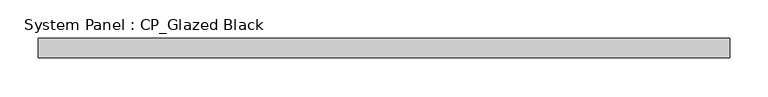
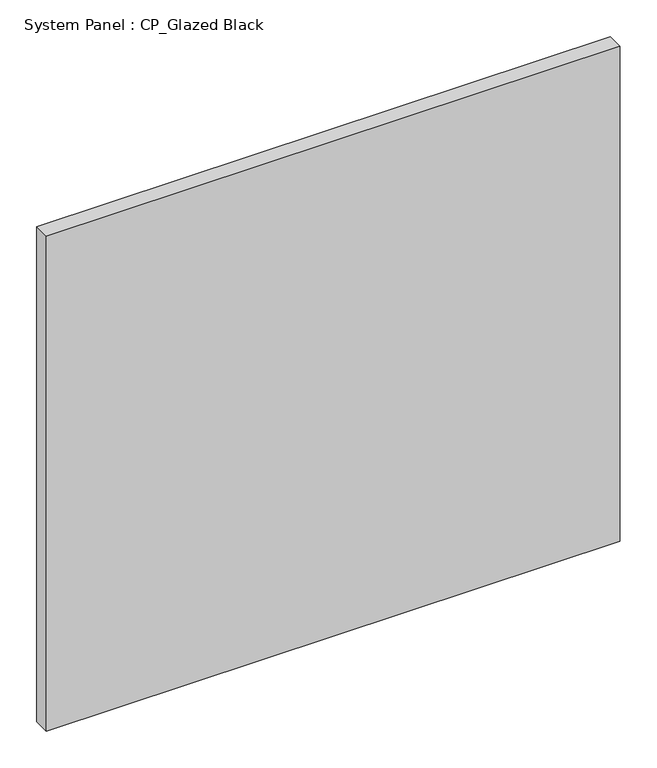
"""IFC4 building model written with IfcOpenShell, lengths in millimetres: plate geometry, System Panel : CP_Glazed Black."""

import ifcopenshell
import ifcopenshell.guid

model = None  # the IFC model being written
_history = None  # IfcOwnerHistory: only IFC2X3 demands one
_inside = {}  # id of a spatial element -> (the spatial element, [elements in it])
_under = {}  # id of a project, library or spatial element -> (it, [spatial elements below it])
_declared = {}  # id of a project -> (the project, [libraries it declares])
_typed = {}  # id of a type object -> (the type object, [elements of that type])
_made_of = {}  # id of a material, layer set ... -> (it, [elements and type objects made of it])


def new_model(schema):
    """Start an empty IFC model of exactly this schema.

    Asked for "IFC4X3", IfcOpenShell would pick the latest addendum, in which some entities
    have other attributes; the version numbers below select the first issue.
    IFC2X3 requires an IfcOwnerHistory on every rooted entity: one is made here for all.
    """
    global model, _history
    if schema == "IFC4X3":
        model = ifcopenshell.file(schema_version=(4, 3, 0, 0))
    else:
        model = ifcopenshell.file(schema=schema)
    _inside.clear()
    _under.clear()
    _declared.clear()
    _typed.clear()
    _made_of.clear()
    _history = None
    if model.schema == "IFC2X3":
        org = make("IfcOrganization", Name="unknown")
        user = make(
            "IfcPersonAndOrganization",
            ThePerson=make("IfcPerson", FamilyName="unknown"),
            TheOrganization=org,
        )
        app = make(
            "IfcApplication",
            ApplicationDeveloper=org,
            Version="unknown",
            ApplicationFullName="unknown",
            ApplicationIdentifier="unknown",
        )
        _history = make(
            "IfcOwnerHistory",
            OwningUser=user,
            OwningApplication=app,
            ChangeAction="ADDED",
            CreationDate=0,
        )
    return model


def make(cls, **values):
    """One entity of the class cls with the attributes given. An attribute that is None is left unset."""
    return model.create_entity(
        cls, **{name: value for name, value in values.items() if value is not None}
    )


def rooted(cls, **values):
    """An entity with a GlobalId (a new one), such as an element, a storey or a relation."""
    return make(cls, GlobalId=ifcopenshell.guid.new(), OwnerHistory=_history, **values)


def si_unit(unit_type, name, prefix=None):
    """IfcSIUnit, for example si_unit("LENGTHUNIT", "METRE", prefix="MILLI")."""
    return make("IfcSIUnit", UnitType=unit_type, Prefix=prefix, Name=name)


def assignment(units):
    """IfcUnitAssignment: the units of a project."""
    return None if units is None else make("IfcUnitAssignment", Units=units)


def point(xyz):
    """IfcCartesianPoint."""
    return None if xyz is None else make("IfcCartesianPoint", Coordinates=xyz)


def direction(xyz):
    """IfcDirection."""
    return None if xyz is None else make("IfcDirection", DirectionRatios=xyz)


def frame(location, z_axis=None, x_axis=None):
    """IfcAxis2Placement3D, a coordinate frame: its origin and axes. An axis left out is left unset."""
    return make(
        "IfcAxis2Placement3D",
        Location=point(location),
        Axis=direction(z_axis),
        RefDirection=direction(x_axis),
    )


def origin():
    """The frame at (0, 0, 0) with its axes left unset."""
    return frame((0.0, 0.0, 0.0))


def origin_with_axes():
    """The frame at (0, 0, 0) with the z axis (0, 0, 1) and the x axis (1, 0, 0) written out."""
    return frame((0.0, 0.0, 0.0), z_axis=(0.0, 0.0, 1.0), x_axis=(1.0, 0.0, 0.0))


def place(relative_to, where):
    """IfcLocalPlacement: puts the frame where relative to a parent placement (None: the world)."""
    return make(
        "IfcLocalPlacement", PlacementRelTo=relative_to, RelativePlacement=where
    )


def context(
    kind, dimensions, precision=None, world=None, true_north=None, identifier=None
):
    """IfcGeometricRepresentationContext, for example the 3D "Model" context."""
    return make(
        "IfcGeometricRepresentationContext",
        ContextIdentifier=identifier,
        ContextType=kind,
        CoordinateSpaceDimension=dimensions,
        Precision=precision,
        WorldCoordinateSystem=world,
        TrueNorth=true_north,
    )


def project(units=None, contexts=None):
    """IfcProject with its units and contexts."""
    return rooted(
        "IfcProject",
        Name="project",
        RepresentationContexts=contexts,
        UnitsInContext=assignment(units),
    )


def spatial(cls, under=None, at=None, **own):
    """A site, building, storey or space (cls), placed at a placement, below another one or the project."""
    s = rooted(cls, ObjectPlacement=at, **own)
    if under is not None:
        _under.setdefault(under.id(), (under, []))[1].append(s)
    return s


def polyline(points):
    """IfcPolyline through the points."""
    return make("IfcPolyline", Points=[point(p) for p in points])


def outline(outer, holes=None, kind="AREA"):
    """IfcArbitraryClosedProfileDef: a profile drawn as a closed curve; with holes, ...WithVoids."""
    if holes is None:
        return make("IfcArbitraryClosedProfileDef", ProfileType=kind, OuterCurve=outer)
    return make(
        "IfcArbitraryProfileDefWithVoids",
        ProfileType=kind,
        OuterCurve=outer,
        InnerCurves=holes,
    )


def extrude(swept, where, along, depth):
    """IfcExtrudedAreaSolid: the profile swept, set in the frame where, extruded along a direction by depth."""
    return make(
        "IfcExtrudedAreaSolid",
        SweptArea=swept,
        Position=where,
        ExtrudedDirection=direction(along),
        Depth=depth,
    )


def shape(context_of_items, identifier, shape_type, items):
    """IfcShapeRepresentation: the items that make up one representation, for example the "Body"."""
    return make(
        "IfcShapeRepresentation",
        ContextOfItems=context_of_items,
        RepresentationIdentifier=identifier,
        RepresentationType=shape_type,
        Items=items,
    )


def source(mapping_origin, context_of_items, identifier, shape_type, items):
    """IfcRepresentationMap: a shape defined once, which mapped items show again and again."""
    return make(
        "IfcRepresentationMap",
        MappingOrigin=mapping_origin,
        MappedRepresentation=shape(context_of_items, identifier, shape_type, items),
    )


def transform(
    local_origin,
    x_axis=None,
    y_axis=None,
    z_axis=None,
    scale=None,
    scale2=None,
    scale3=None,
    uniform=True,
):
    """IfcCartesianTransformationOperator3D, or its non-uniform kind. x_axis, y_axis, z_axis: its Axis1, 2, 3."""
    if uniform:
        return make(
            "IfcCartesianTransformationOperator3D",
            Axis1=direction(x_axis),
            Axis2=direction(y_axis),
            LocalOrigin=point(local_origin),
            Scale=scale,
            Axis3=direction(z_axis),
        )
    return make(
        "IfcCartesianTransformationOperator3DnonUniform",
        Axis1=direction(x_axis),
        Axis2=direction(y_axis),
        LocalOrigin=point(local_origin),
        Scale=scale,
        Axis3=direction(z_axis),
        Scale2=scale2,
        Scale3=scale3,
    )


def mapped(mapping_source, mapping_target):
    """IfcMappedItem: shows the shape of a source again, moved by a transform."""
    return make(
        "IfcMappedItem", MappingSource=mapping_source, MappingTarget=mapping_target
    )


def made_of(thing, what):
    """Note that an element or type object is made of a material, layer set ...; save() writes the relation."""
    if what is not None:
        _made_of.setdefault(what.id(), (what, []))[1].append(thing)
    return thing


def element(
    cls,
    number,
    at=None,
    inside=None,
    cuts=None,
    type_object=None,
    material=None,
    context=None,
    identifier="Body",
    shape_type=None,
    held_by="IfcProductDefinitionShape",
    body=None,
    shapes=None,
    **own,
):
    """One element of the class cls, such as IfcWall. Its Tag is "e" and its number.

    at: its placement. inside: the storey or other place that contains it. cuts: it is an
    opening in that element (IfcRelVoidsElement). A single representation is given by context,
    identifier, shape_type and body (its items); several are given by shapes. held_by: the class
    of the entity that holds the representations. save() writes the other relations.
    """
    e = rooted(cls, Tag="e%d" % number, ObjectPlacement=at, **own)
    if body is not None:
        shapes = [shape(context, identifier, shape_type, body)]
    if shapes is not None:
        e.Representation = make(held_by, Representations=shapes)
    if inside is not None:
        _inside.setdefault(inside.id(), (inside, []))[1].append(e)
    if cuts is not None:
        rooted(
            "IfcRelVoidsElement", RelatingBuildingElement=cuts, RelatedOpeningElement=e
        )
    if type_object is not None:
        _typed.setdefault(type_object.id(), (type_object, []))[1].append(e)
    return made_of(e, material)


def aggregate(whole, parts):
    """IfcRelAggregates: a whole, such as a stair, and the parts it consists of."""
    return rooted("IfcRelAggregates", RelatingObject=whole, RelatedObjects=parts)


def save(model, path):
    """Write the relations noted so far, then the file.

    IfcRelAggregates (storeys below a building ...), IfcRelContainedInSpatialStructure (elements
    in a storey), IfcRelDefinesByType, IfcRelAssociatesMaterial and IfcRelDeclares: one each for
    every whole, place, type object, material and project.
    """
    for whole, parts in _under.values():
        aggregate(whole, parts)
    for where, things in _inside.values():
        rooted(
            "IfcRelContainedInSpatialStructure",
            RelatedElements=things,
            RelatingStructure=where,
        )
    for kind, things in _typed.values():
        rooted("IfcRelDefinesByType", RelatedObjects=things, RelatingType=kind)
    for what, things in _made_of.values():
        rooted("IfcRelAssociatesMaterial", RelatedObjects=things, RelatingMaterial=what)
    for by, libraries in _declared.values():
        rooted("IfcRelDeclares", RelatingContext=by, RelatedDefinitions=libraries)
    model.write(path)


def system_panel_cp_glazed_black_0f7e542e(model_context):
    return source(origin(), model_context, "Body", "SweptSolid", [
        extrude(outline(polyline([(449.3280782, 19.05), (-449.3280782, 19.05), (-449.3280782, 44.45), (449.3280782, 44.45), (449.3280782, 19.05)])), origin_with_axes(), (0.0, 0.0, 1.0), 819.15),
    ])


if __name__ == "__main__":
    model = new_model("IFC4")
    model_context = context("Model", 3, world=origin())
    ifc_project = project(units=[si_unit("LENGTHUNIT", "METRE", prefix="MILLI")], contexts=[model_context])
    site = spatial("IfcSite", under=ifc_project)
    building = spatial("IfcBuilding", under=site)
    placement = place(None, origin())
    system_panel_cp_glazed_black_shape = system_panel_cp_glazed_black_0f7e542e(model_context)
    element("IfcPlate", 1, ObjectType="System Panel : CP_Glazed Black", at=placement, inside=building, context=model_context, shape_type="MappedRepresentation", body=[
        mapped(system_panel_cp_glazed_black_shape, transform((0.0, 0.0, 0.0), x_axis=(1.0, 0.0, 0.0), y_axis=(0.0, 1.0, 0.0), z_axis=(0.0, 0.0, 1.0))),
    ])
    save(model, "model.ifc")
